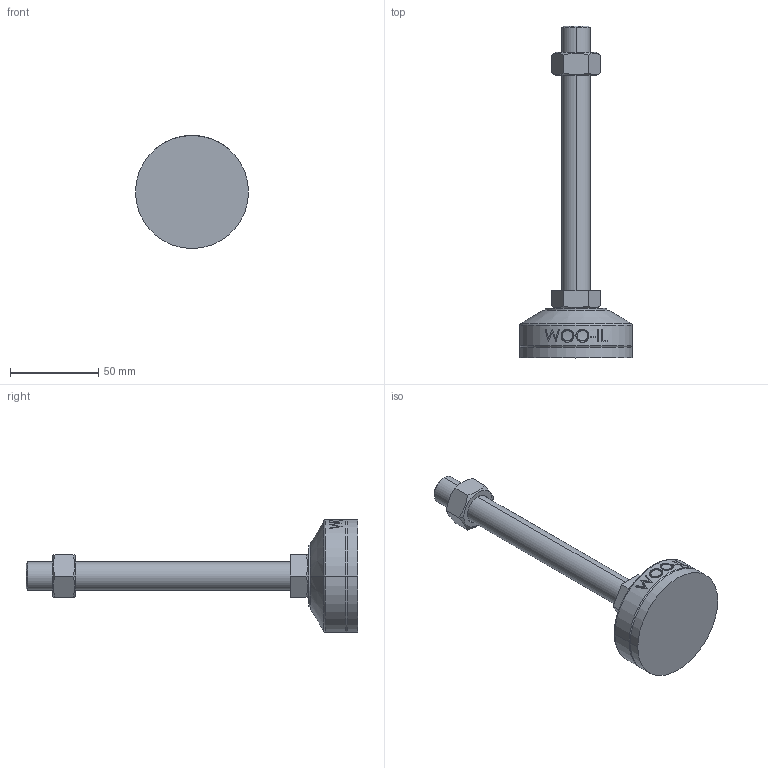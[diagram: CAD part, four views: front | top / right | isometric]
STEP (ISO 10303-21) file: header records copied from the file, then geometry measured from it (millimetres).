
FILE_DESCRIPTION (( 'STEP AP214' ), '1' );
FILE_NAME ('MFZR64-M16-150.step', '2021-03-29T06:55:54', ( '' ), ( '' ), 'SwSTEP 2.0', 'SolidWorks 2019', '' );
FILE_SCHEMA (( 'AUTOMOTIVE_DESIGN' ));
Length unit declared in the file: millimetre
Products named in the file (2): MFZR64-M16-150
Bounding box: 64 x 188 x 64 mm (x, y, z)
Volume: 117283.3 mm3; surface area: 28570 mm2
Topology: 4 solids, 4 shells, 103 faces, 235 edges, 150 vertices
Faces by surface type: plane 49, cylinder 18, bspline 16, cone 14, torus 6
Entity records: 4435 total; most frequent: CARTESIAN_POINT 2162, ORIENTED_EDGE 470, DIRECTION 417, EDGE_CURVE 235, AXIS2_PLACEMENT_3D 159, VERTEX_POINT 150, EDGE_LOOP 115, ADVANCED_FACE 103
